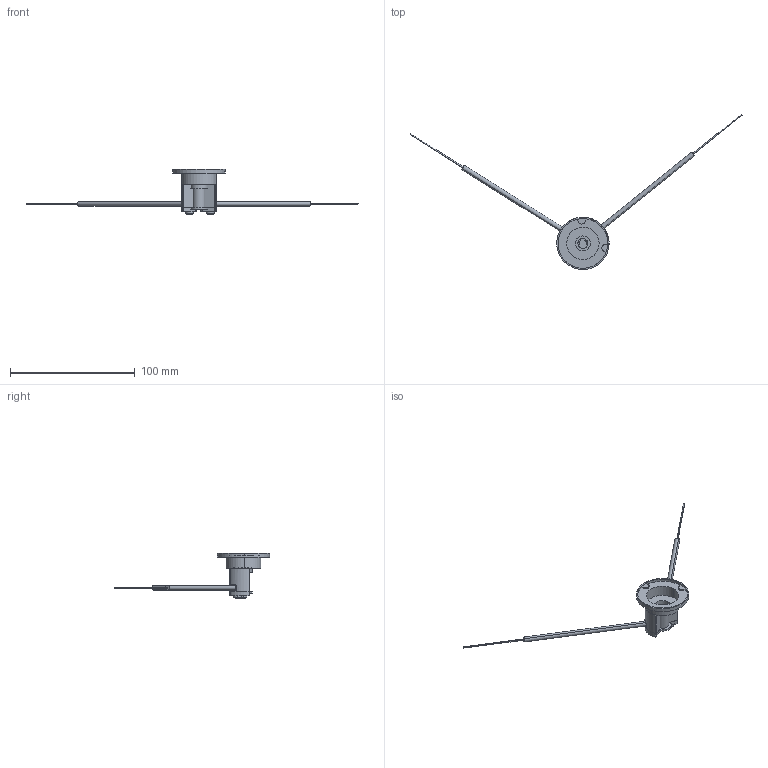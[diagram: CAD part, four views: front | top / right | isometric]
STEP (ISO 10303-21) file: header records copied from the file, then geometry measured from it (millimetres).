
FILE_DESCRIPTION (( 'STEP AP203' ), '1' );
FILE_NAME ('FU-20PRN.STEP', '2016-06-21T01:38:47', ( '' ), ( '' ), 'SwSTEP 2.0', 'SolidWorks 2014', '' );
FILE_SCHEMA (( 'CONFIG_CONTROL_DESIGN' ));
Length unit declared in the file: metre
Products named in the file (8): PRNA10S-#-#-#-FR (1)_3; PRNA10S-#-#-#-FR (5)_3; FU-20PRN; PRNA10S-#-#-#-FR (6)_3; PRNA10S-#-#-#-FU (8)_1; PRNA10S-#-#-#-FR (7)_3; PRNA10S-#-#-#-FR (4)_3
Assembly tree (9 placements, depth 2):
  FU-20PRN
    PRNA10S-#-#-#-FR (1)_3
    PRNA10S-#-#-#-FR (4)_3
    PRNA10S-#-#-#-FR (5)_3
    PRNA10S-#-#-#-FR (6)_3  x2
    PRNA10S-#-#-#-FR (7)_3  x2
    PRNA10S-#-#-#-FU (8)_1
    (unnamed)
Bounding box: 266.6 x 124.57 x 36.41 mm (x, y, z)
Volume: 10951.3 mm3; surface area: 12453.1 mm2
Topology: 9 solids, 9 shells, 178 faces, 442 edges, 292 vertices
Faces by surface type: cylinder 88, plane 86, bspline 4
Entity records: 5722 total; most frequent: CARTESIAN_POINT 1030, DIRECTION 854, ORIENTED_EDGE 768, EDGE_CURVE 384, AXIS2_PLACEMENT_3D 330, VERTEX_POINT 254, VECTOR 194, LINE 194
